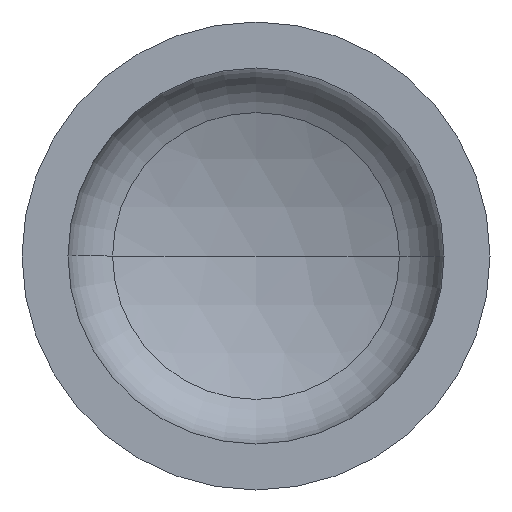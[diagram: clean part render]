
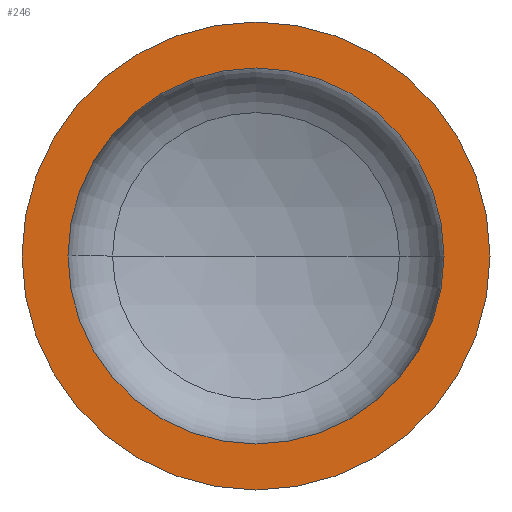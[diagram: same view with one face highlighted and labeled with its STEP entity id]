
A CAD part, front view. The second image highlights one B-rep face of the part: STEP entity #246.
In plain terms, the highlighted planar face has unit normal (0, -1, 0).
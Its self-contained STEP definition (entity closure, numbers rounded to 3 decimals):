
#4 = EDGE_LOOP ( 'NONE', ( #36, #77 ) ) ;
#22 = VERTEX_POINT ( 'NONE', #288 ) ;
#32 = CARTESIAN_POINT ( 'NONE',  ( -550., 0., 0. ) ) ;
#36 = ORIENTED_EDGE ( 'NONE', *, *, #407, .T. ) ;
#40 = AXIS2_PLACEMENT_3D ( 'NONE', #157, #161, #294 ) ;
#41 = VERTEX_POINT ( 'NONE', #239 ) ;
#48 = CIRCLE ( 'NONE', #40, 442. ) ;
#56 = EDGE_LOOP ( 'NONE', ( #95, #163 ) ) ;
#70 = AXIS2_PLACEMENT_3D ( 'NONE', #32, #262, #390 ) ;
#77 = ORIENTED_EDGE ( 'NONE', *, *, #183, .T. ) ;
#83 = VERTEX_POINT ( 'NONE', #237 ) ;
#95 = ORIENTED_EDGE ( 'NONE', *, *, #184, .F. ) ;
#140 = VERTEX_POINT ( 'NONE', #334 ) ;
#151 = AXIS2_PLACEMENT_3D ( 'NONE', #323, #320, #319 ) ;
#154 = AXIS2_PLACEMENT_3D ( 'NONE', #376, #382, #318 ) ;
#157 = CARTESIAN_POINT ( 'NONE',  ( 0., 0., 0. ) ) ;
#161 = DIRECTION ( 'NONE',  ( 0., -1., 0. ) ) ;
#163 = ORIENTED_EDGE ( 'NONE', *, *, #368, .F. ) ;
#172 = CARTESIAN_POINT ( 'NONE',  ( 0., 0., 0. ) ) ;
#183 = EDGE_CURVE ( 'NONE', #83, #41, #411, .T. ) ;
#184 = EDGE_CURVE ( 'NONE', #140, #22, #290, .T. ) ;
#185 = PLANE ( 'NONE',  #70 ) ;
#208 = DIRECTION ( 'NONE',  ( 1., 0., 0. ) ) ;
#237 = CARTESIAN_POINT ( 'NONE',  ( -550., 0., 0. ) ) ;
#239 = CARTESIAN_POINT ( 'NONE',  ( 550., 0., 0. ) ) ;
#243 = AXIS2_PLACEMENT_3D ( 'NONE', #172, #351, #208 ) ;
#246 = ADVANCED_FACE ( 'NONE', ( #272, #388 ), #185, .F. ) ;
#262 = DIRECTION ( 'NONE',  ( 0., 1., 0. ) ) ;
#272 = FACE_BOUND ( 'NONE', #56, .T. ) ;
#288 = CARTESIAN_POINT ( 'NONE',  ( -442., 0., 0. ) ) ;
#290 = CIRCLE ( 'NONE', #151, 442. ) ;
#294 = DIRECTION ( 'NONE',  ( 1., 0., 0. ) ) ;
#318 = DIRECTION ( 'NONE',  ( 1., 0., 0. ) ) ;
#319 = DIRECTION ( 'NONE',  ( 1., 0., 0. ) ) ;
#320 = DIRECTION ( 'NONE',  ( 0., -1., 0. ) ) ;
#323 = CARTESIAN_POINT ( 'NONE',  ( 0., 0., 0. ) ) ;
#334 = CARTESIAN_POINT ( 'NONE',  ( 442., 0., 0. ) ) ;
#351 = DIRECTION ( 'NONE',  ( 0., -1., 0. ) ) ;
#357 = CIRCLE ( 'NONE', #243, 550. ) ;
#368 = EDGE_CURVE ( 'NONE', #22, #140, #48, .T. ) ;
#376 = CARTESIAN_POINT ( 'NONE',  ( 0., 0., 0. ) ) ;
#382 = DIRECTION ( 'NONE',  ( 0., -1., 0. ) ) ;
#388 = FACE_OUTER_BOUND ( 'NONE', #4, .T. ) ;
#390 = DIRECTION ( 'NONE',  ( -1., 0., 0. ) ) ;
#407 = EDGE_CURVE ( 'NONE', #41, #83, #357, .T. ) ;
#411 = CIRCLE ( 'NONE', #154, 550. ) ;
